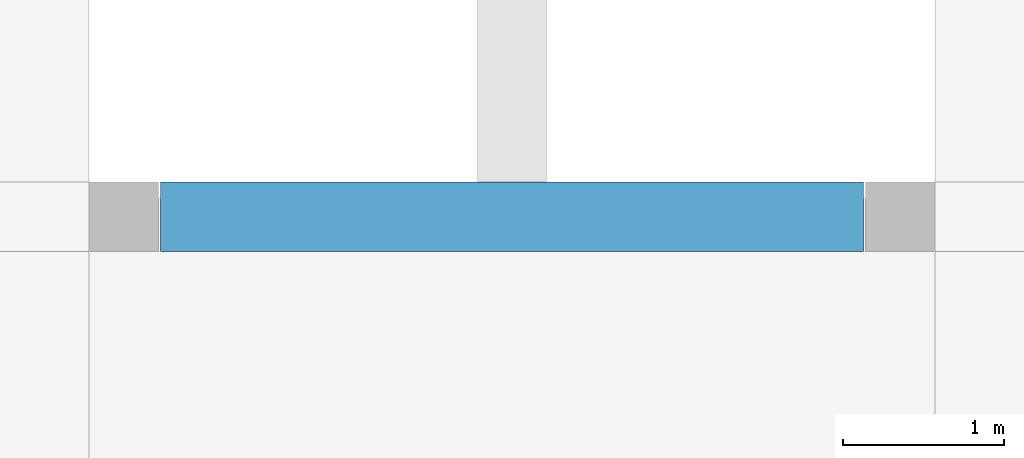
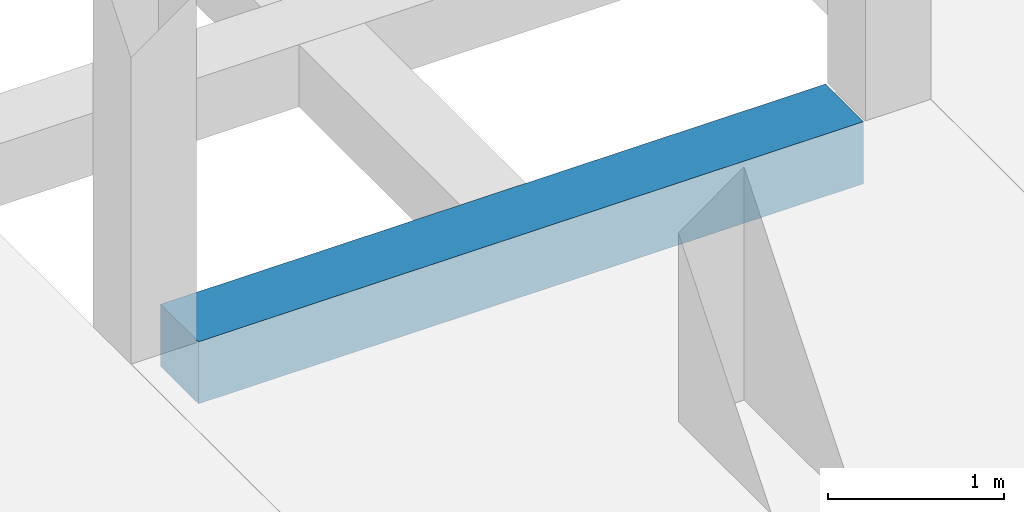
# One storey, part 7 of 18: 1 beam.
"""IFC2X3 building model written with IfcOpenShell, lengths in millimetres."""

import ifcopenshell
import ifcopenshell.guid

model = None  # the IFC model being written
_history = None  # IfcOwnerHistory: only IFC2X3 demands one
_inside = {}  # id of a spatial element -> (the spatial element, [elements in it])
_under = {}  # id of a project, library or spatial element -> (it, [spatial elements below it])
_declared = {}  # id of a project -> (the project, [libraries it declares])
_typed = {}  # id of a type object -> (the type object, [elements of that type])
_made_of = {}  # id of a material, layer set ... -> (it, [elements and type objects made of it])


def new_model(schema):
    """Start an empty IFC model of exactly this schema.

    Asked for "IFC4X3", IfcOpenShell would pick the latest addendum, in which some entities
    have other attributes; the version numbers below select the first issue.
    IFC2X3 requires an IfcOwnerHistory on every rooted entity: one is made here for all.
    """
    global model, _history
    if schema == "IFC4X3":
        model = ifcopenshell.file(schema_version=(4, 3, 0, 0))
    else:
        model = ifcopenshell.file(schema=schema)
    _inside.clear()
    _under.clear()
    _declared.clear()
    _typed.clear()
    _made_of.clear()
    _history = None
    if model.schema == "IFC2X3":
        org = make("IfcOrganization", Name="unknown")
        user = make(
            "IfcPersonAndOrganization",
            ThePerson=make("IfcPerson", FamilyName="unknown"),
            TheOrganization=org,
        )
        app = make(
            "IfcApplication",
            ApplicationDeveloper=org,
            Version="unknown",
            ApplicationFullName="unknown",
            ApplicationIdentifier="unknown",
        )
        _history = make(
            "IfcOwnerHistory",
            OwningUser=user,
            OwningApplication=app,
            ChangeAction="ADDED",
            CreationDate=0,
        )
    return model


def make(cls, **values):
    """One entity of the class cls with the attributes given. An attribute that is None is left unset."""
    return model.create_entity(
        cls, **{name: value for name, value in values.items() if value is not None}
    )


def entity(cls, *values):
    """Any entity or typed value of the class cls, its attributes in the order of the schema. None: left unset."""
    e = model.create_entity(cls)
    for i, value in enumerate(values):
        if value is not None:
            e[i] = value
    return e


def rooted(cls, **values):
    """An entity with a GlobalId (a new one), such as an element, a storey or a relation."""
    return make(cls, GlobalId=ifcopenshell.guid.new(), OwnerHistory=_history, **values)


def si_unit(unit_type, name, prefix=None):
    """IfcSIUnit, for example si_unit("LENGTHUNIT", "METRE", prefix="MILLI")."""
    return make("IfcSIUnit", UnitType=unit_type, Prefix=prefix, Name=name)


def converted_unit(unit_type, name, factor, base, dimensions=None, offset=None):
    """IfcConversionBasedUnit, such as the inch: factor (a typed value) times the base unit."""
    return make(
        "IfcConversionBasedUnit"
        if offset is None
        else "IfcConversionBasedUnitWithOffset",
        ConversionOffset=offset,
        Dimensions=None
        if dimensions is None
        else entity("IfcDimensionalExponents", *dimensions),
        UnitType=unit_type,
        Name=name,
        ConversionFactor=make(
            "IfcMeasureWithUnit", ValueComponent=factor, UnitComponent=base
        ),
    )


def derived_unit(unit_type, elements):
    """IfcDerivedUnit: a product of units, each with its exponent."""
    return make(
        "IfcDerivedUnit",
        Elements=[
            make("IfcDerivedUnitElement", Unit=unit, Exponent=power)
            for unit, power in elements
        ],
        UnitType=unit_type,
    )


def assignment(units):
    """IfcUnitAssignment: the units of a project."""
    return None if units is None else make("IfcUnitAssignment", Units=units)


def point(xyz):
    """IfcCartesianPoint."""
    return None if xyz is None else make("IfcCartesianPoint", Coordinates=xyz)


def direction(xyz):
    """IfcDirection."""
    return None if xyz is None else make("IfcDirection", DirectionRatios=xyz)


def frame(location, z_axis=None, x_axis=None):
    """IfcAxis2Placement3D, a coordinate frame: its origin and axes. An axis left out is left unset."""
    return make(
        "IfcAxis2Placement3D",
        Location=point(location),
        Axis=direction(z_axis),
        RefDirection=direction(x_axis),
    )


def frame_2d(location, x_axis=None):
    """IfcAxis2Placement2D, a coordinate frame in the plane: its origin and x axis."""
    return make(
        "IfcAxis2Placement2D", Location=point(location), RefDirection=direction(x_axis)
    )


def origin():
    """The frame at (0, 0, 0) with its axes left unset."""
    return frame((0.0, 0.0, 0.0))


def place(relative_to, where):
    """IfcLocalPlacement: puts the frame where relative to a parent placement (None: the world)."""
    return make(
        "IfcLocalPlacement", PlacementRelTo=relative_to, RelativePlacement=where
    )


def context(
    kind, dimensions, precision=None, world=None, true_north=None, identifier=None
):
    """IfcGeometricRepresentationContext, for example the 3D "Model" context."""
    return make(
        "IfcGeometricRepresentationContext",
        ContextIdentifier=identifier,
        ContextType=kind,
        CoordinateSpaceDimension=dimensions,
        Precision=precision,
        WorldCoordinateSystem=world,
        TrueNorth=true_north,
    )


def subcontext(parent, identifier, kind, view, scale=None):
    """IfcGeometricRepresentationSubContext, for example "Body" below "Model"."""
    return make(
        "IfcGeometricRepresentationSubContext",
        ContextIdentifier=identifier,
        ContextType=kind,
        ParentContext=parent,
        TargetScale=scale,
        TargetView=view,
    )


def project(units=None, contexts=None):
    """IfcProject with its units and contexts."""
    return rooted(
        "IfcProject",
        Name="project",
        RepresentationContexts=contexts,
        UnitsInContext=assignment(units),
    )


def spatial(cls, under=None, at=None, **own):
    """A site, building, storey or space (cls), placed at a placement, below another one or the project."""
    s = rooted(cls, ObjectPlacement=at, **own)
    if under is not None:
        _under.setdefault(under.id(), (under, []))[1].append(s)
    return s


def profile(cls, at=None, kind="AREA", **sizes):
    """A parametric profile (cls). Its sizes go by their IFC names, for example OverallWidth=200.0."""
    return make(cls, ProfileType=kind, Position=at, **sizes)


def rectangle(**sizes):
    """IfcRectangleProfileDef."""
    return profile("IfcRectangleProfileDef", **sizes)


def extrude(swept, where, along, depth):
    """IfcExtrudedAreaSolid: the profile swept, set in the frame where, extruded along a direction by depth."""
    return make(
        "IfcExtrudedAreaSolid",
        SweptArea=swept,
        Position=where,
        ExtrudedDirection=direction(along),
        Depth=depth,
    )


def shape(context_of_items, identifier, shape_type, items):
    """IfcShapeRepresentation: the items that make up one representation, for example the "Body"."""
    return make(
        "IfcShapeRepresentation",
        ContextOfItems=context_of_items,
        RepresentationIdentifier=identifier,
        RepresentationType=shape_type,
        Items=items,
    )


def material(Name=None, Category=None):
    """IfcMaterial."""
    return make("IfcMaterial", Name=Name, Category=Category)


def made_of(thing, what):
    """Note that an element or type object is made of a material, layer set ...; save() writes the relation."""
    if what is not None:
        _made_of.setdefault(what.id(), (what, []))[1].append(thing)
    return thing


def type_object(cls, material=None, **own):
    """A type object (cls), such as IfcWallType, which elements share."""
    return made_of(rooted(cls, **own), material)


def element(
    cls,
    number,
    at=None,
    inside=None,
    cuts=None,
    type_object=None,
    material=None,
    context=None,
    identifier="Body",
    shape_type=None,
    held_by="IfcProductDefinitionShape",
    body=None,
    shapes=None,
    **own,
):
    """One element of the class cls, such as IfcWall. Its Tag is "e" and its number.

    at: its placement. inside: the storey or other place that contains it. cuts: it is an
    opening in that element (IfcRelVoidsElement). A single representation is given by context,
    identifier, shape_type and body (its items); several are given by shapes. held_by: the class
    of the entity that holds the representations. save() writes the other relations.
    """
    e = rooted(cls, Tag="e%d" % number, ObjectPlacement=at, **own)
    if body is not None:
        shapes = [shape(context, identifier, shape_type, body)]
    if shapes is not None:
        e.Representation = make(held_by, Representations=shapes)
    if inside is not None:
        _inside.setdefault(inside.id(), (inside, []))[1].append(e)
    if cuts is not None:
        rooted(
            "IfcRelVoidsElement", RelatingBuildingElement=cuts, RelatedOpeningElement=e
        )
    if type_object is not None:
        _typed.setdefault(type_object.id(), (type_object, []))[1].append(e)
    return made_of(e, material)


def aggregate(whole, parts):
    """IfcRelAggregates: a whole, such as a stair, and the parts it consists of."""
    return rooted("IfcRelAggregates", RelatingObject=whole, RelatedObjects=parts)


def save(model, path):
    """Write the relations noted so far, then the file.

    IfcRelAggregates (storeys below a building ...), IfcRelContainedInSpatialStructure (elements
    in a storey), IfcRelDefinesByType, IfcRelAssociatesMaterial and IfcRelDeclares: one each for
    every whole, place, type object, material and project.
    """
    for whole, parts in _under.values():
        aggregate(whole, parts)
    for where, things in _inside.values():
        rooted(
            "IfcRelContainedInSpatialStructure",
            RelatedElements=things,
            RelatingStructure=where,
        )
    for kind, things in _typed.values():
        rooted("IfcRelDefinesByType", RelatedObjects=things, RelatingType=kind)
    for what, things in _made_of.values():
        rooted("IfcRelAssociatesMaterial", RelatedObjects=things, RelatingMaterial=what)
    for by, libraries in _declared.values():
        rooted("IfcRelDeclares", RelatingContext=by, RelatedDefinitions=libraries)
    model.write(path)


model = new_model("IFC2X3")

# Units and contexts
model_context = context("Model", 3, precision=0.01, world=origin(), true_north=direction((6.12303176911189e-17, 1.0)))
body_context = subcontext(model_context, "Body", "Model", "MODEL_VIEW")
ifc_project = project(units=[si_unit("LENGTHUNIT", "METRE", prefix="MILLI"), si_unit("AREAUNIT", "SQUARE_METRE"), si_unit("VOLUMEUNIT", "CUBIC_METRE"), converted_unit("PLANEANGLEUNIT", "DEGREE", entity("IfcRatioMeasure", 0.0174532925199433), si_unit("PLANEANGLEUNIT", "RADIAN"), dimensions=[0, 0, 0, 0, 0, 0, 0]), si_unit("MASSUNIT", "GRAM", prefix="KILO"), derived_unit("MASSDENSITYUNIT", [(si_unit("MASSUNIT", "GRAM", prefix="KILO"), 1), (si_unit("LENGTHUNIT", "METRE"), -3)]), derived_unit("MOMENTOFINERTIAUNIT", [(si_unit("LENGTHUNIT", "METRE"), 4)]), si_unit("TIMEUNIT", "SECOND"), si_unit("FREQUENCYUNIT", "HERTZ"), si_unit("THERMODYNAMICTEMPERATUREUNIT", "DEGREE_CELSIUS"), derived_unit("THERMALTRANSMITTANCEUNIT", [(si_unit("MASSUNIT", "GRAM", prefix="KILO"), 1), (si_unit("THERMODYNAMICTEMPERATUREUNIT", "KELVIN"), -1), (si_unit("TIMEUNIT", "SECOND"), -3)]), derived_unit("VOLUMETRICFLOWRATEUNIT", [(si_unit("LENGTHUNIT", "METRE"), 3), (si_unit("TIMEUNIT", "SECOND"), -1)]), si_unit("ELECTRICCURRENTUNIT", "AMPERE"), si_unit("ELECTRICVOLTAGEUNIT", "VOLT"), si_unit("POWERUNIT", "WATT"), si_unit("FORCEUNIT", "NEWTON", prefix="KILO"), si_unit("ILLUMINANCEUNIT", "LUX"), si_unit("LUMINOUSFLUXUNIT", "LUMEN"), si_unit("LUMINOUSINTENSITYUNIT", "CANDELA"), derived_unit("USERDEFINED", [(si_unit("MASSUNIT", "GRAM", prefix="KILO"), -1), (si_unit("LENGTHUNIT", "METRE"), -2), (si_unit("TIMEUNIT", "SECOND"), 3), (si_unit("LUMINOUSFLUXUNIT", "LUMEN"), 1)]), derived_unit("LINEARVELOCITYUNIT", [(si_unit("LENGTHUNIT", "METRE"), 1), (si_unit("TIMEUNIT", "SECOND"), -1)]), si_unit("PRESSUREUNIT", "PASCAL"), derived_unit("USERDEFINED", [(si_unit("LENGTHUNIT", "METRE"), -2), (si_unit("MASSUNIT", "GRAM", prefix="KILO"), 1), (si_unit("TIMEUNIT", "SECOND"), -2)]), derived_unit("LINEARFORCEUNIT", [(si_unit("MASSUNIT", "GRAM", prefix="KILO"), 1), (si_unit("LENGTHUNIT", "METRE"), 1), (si_unit("TIMEUNIT", "SECOND"), -2), (si_unit("LENGTHUNIT", "METRE"), -1)]), derived_unit("PLANARFORCEUNIT", [(si_unit("MASSUNIT", "GRAM", prefix="KILO"), 1), (si_unit("LENGTHUNIT", "METRE"), 1), (si_unit("TIMEUNIT", "SECOND"), -2), (si_unit("LENGTHUNIT", "METRE"), -2)])], contexts=[model_context])

# Site, building, storey
site_placement = place(None, frame((10627.5135316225, 21939.0796949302, 0.0)))
site = spatial("IfcSite", under=ifc_project, at=site_placement, Name="Default", CompositionType="ELEMENT")
building_placement = place(site_placement, origin())
building = spatial("IfcBuilding", under=site, at=building_placement, CompositionType="ELEMENT")
storey_placement = place(building_placement, frame((0.0, 0.0, 3660.0)))
storey = spatial("IfcBuildingStorey", under=building, at=storey_placement, Name="R+1", CompositionType="ELEMENT", Elevation=3660.0)

# Beam
ifc_material = material(Name="Concrete, Precast Smooth, Light Grey")
beam_type = type_object("IfcBeamType", Name="M_Concrete-Rectangular Beam:400 x 800mm", PredefinedType="NOTDEFINED")
beam_placement = place(storey_placement, frame((24172.4864683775, -15159.0796949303, 0.0)))
element("IfcBeam", 1, at=beam_placement, inside=storey, type_object=beam_type, material=ifc_material, Name="M_Concrete-Rectangular Beam:400 x 800mm", ObjectType="M_Concrete-Rectangular Beam:400 x 800mm", context=body_context, shape_type="SweptSolid", body=[
    extrude(rectangle(XDim=430.0, YDim=430.000000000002, at=frame_2d((0.0, 1.29887212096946e-11), x_axis=(1.0, 0.0))), frame((227.700000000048, 0.0, -215.0), z_axis=(1.0, 0.0, 0.0), x_axis=(0.0, 0.0, -1.0)), (0.0, 0.0, 1.0), 4354.59999999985),
])

save(model, "model.ifc")
